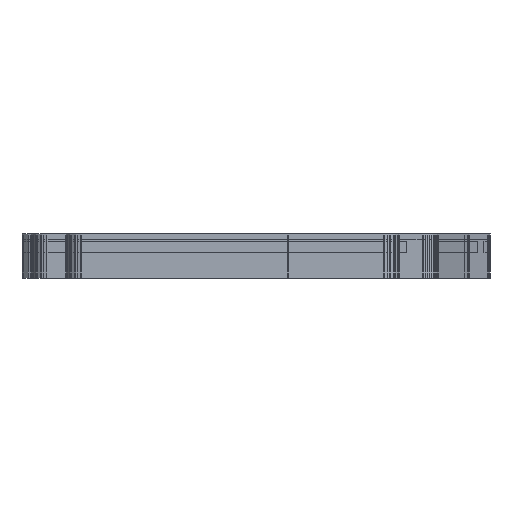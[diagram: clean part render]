
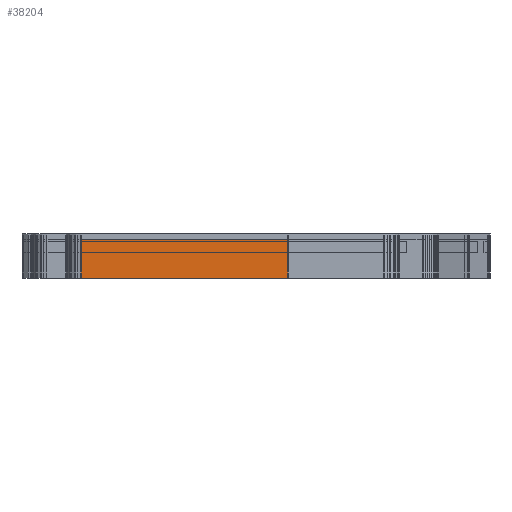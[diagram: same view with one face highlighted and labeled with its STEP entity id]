
A CAD part, left-side view. The second image highlights one B-rep face of the part: STEP entity #38204.
In plain terms, the highlighted planar face has unit normal (-1, 0, 0).
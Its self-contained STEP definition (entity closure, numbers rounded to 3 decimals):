
#22875 = PLANE('',#22876);
#22876 = AXIS2_PLACEMENT_3D('',#22877,#22878,#22879);
#22877 = CARTESIAN_POINT('',(-6.07,-64.068,-6.6));
#22878 = DIRECTION('',(0.707,-0.707,0.));
#22879 = DIRECTION('',(-0.707,-0.707,0.));
#22903 = PLANE('',#22904);
#22904 = AXIS2_PLACEMENT_3D('',#22905,#22906,#22907);
#22905 = CARTESIAN_POINT('',(71.068,-53.202,3.5));
#22906 = DIRECTION('',(0.,0.,1.));
#22907 = DIRECTION('',(1.,0.,-0.));
#22957 = PLANE('',#22958);
#22958 = AXIS2_PLACEMENT_3D('',#22959,#22960,#22961);
#22959 = CARTESIAN_POINT('',(71.068,-53.202,-6.6));
#22960 = DIRECTION('',(0.,0.,1.));
#22961 = DIRECTION('',(1.,0.,-0.));
#22972 = EDGE_CURVE('',#22973,#22975,#22977,.T.);
#22973 = VERTEX_POINT('',#22974);
#22974 = CARTESIAN_POINT('',(-6.07,-64.068,-6.6));
#22975 = VERTEX_POINT('',#22976);
#22976 = CARTESIAN_POINT('',(-6.07,-64.068,3.5));
#22977 = SURFACE_CURVE('',#22978,(#22982,#22989),.PCURVE_S1.);
#22978 = LINE('',#22979,#22980);
#22979 = CARTESIAN_POINT('',(-6.07,-64.068,-6.6));
#22980 = VECTOR('',#22981,1.);
#22981 = DIRECTION('',(0.,0.,1.));
#22982 = PCURVE('',#22875,#22983);
#22983 = DEFINITIONAL_REPRESENTATION('',(#22984),#22988);
#22984 = LINE('',#22985,#22986);
#22985 = CARTESIAN_POINT('',(0.,0.));
#22986 = VECTOR('',#22987,1.);
#22987 = DIRECTION('',(0.,-1.));
#22988 = ( GEOMETRIC_REPRESENTATION_CONTEXT(2) 
PARAMETRIC_REPRESENTATION_CONTEXT() REPRESENTATION_CONTEXT('2D SPACE',''
  ) );
#22989 = PCURVE('',#22990,#22995);
#22990 = PLANE('',#22991);
#22991 = AXIS2_PLACEMENT_3D('',#22992,#22993,#22994);
#22992 = CARTESIAN_POINT('',(-6.07,-9.721,-6.6));
#22993 = DIRECTION('',(1.,0.,-0.));
#22994 = DIRECTION('',(0.,-1.,0.));
#22995 = DEFINITIONAL_REPRESENTATION('',(#22996),#23000);
#22996 = LINE('',#22997,#22998);
#22997 = CARTESIAN_POINT('',(54.347,0.));
#22998 = VECTOR('',#22999,1.);
#22999 = DIRECTION('',(0.,-1.));
#23000 = ( GEOMETRIC_REPRESENTATION_CONTEXT(2) 
PARAMETRIC_REPRESENTATION_CONTEXT() REPRESENTATION_CONTEXT('2D SPACE',''
  ) );
#27742 = VERTEX_POINT('',#27743);
#27743 = CARTESIAN_POINT('',(-6.07,-9.721,-6.6));
#27757 = PLANE('',#27758);
#27758 = AXIS2_PLACEMENT_3D('',#27759,#27760,#27761);
#27759 = CARTESIAN_POINT('',(-6.026,-9.5,-6.6));
#27760 = DIRECTION('',(0.981,-0.195,0.));
#27761 = DIRECTION('',(-0.195,-0.981,0.));
#27769 = EDGE_CURVE('',#27742,#22973,#27770,.T.);
#27770 = SURFACE_CURVE('',#27771,(#27775,#27782),.PCURVE_S1.);
#27771 = LINE('',#27772,#27773);
#27772 = CARTESIAN_POINT('',(-6.07,-9.721,-6.6));
#27773 = VECTOR('',#27774,1.);
#27774 = DIRECTION('',(0.,-1.,0.));
#27775 = PCURVE('',#22957,#27776);
#27776 = DEFINITIONAL_REPRESENTATION('',(#27777),#27781);
#27777 = LINE('',#27778,#27779);
#27778 = CARTESIAN_POINT('',(-77.138,43.481));
#27779 = VECTOR('',#27780,1.);
#27780 = DIRECTION('',(0.,-1.));
#27781 = ( GEOMETRIC_REPRESENTATION_CONTEXT(2) 
PARAMETRIC_REPRESENTATION_CONTEXT() REPRESENTATION_CONTEXT('2D SPACE',''
  ) );
#27782 = PCURVE('',#22990,#27783);
#27783 = DEFINITIONAL_REPRESENTATION('',(#27784),#27788);
#27784 = LINE('',#27785,#27786);
#27785 = CARTESIAN_POINT('',(0.,0.));
#27786 = VECTOR('',#27787,1.);
#27787 = DIRECTION('',(1.,0.));
#27788 = ( GEOMETRIC_REPRESENTATION_CONTEXT(2) 
PARAMETRIC_REPRESENTATION_CONTEXT() REPRESENTATION_CONTEXT('2D SPACE',''
  ) );
#31716 = VERTEX_POINT('',#31717);
#31717 = CARTESIAN_POINT('',(-6.07,-9.721,3.5));
#31738 = EDGE_CURVE('',#31716,#22975,#31739,.T.);
#31739 = SURFACE_CURVE('',#31740,(#31744,#31751),.PCURVE_S1.);
#31740 = LINE('',#31741,#31742);
#31741 = CARTESIAN_POINT('',(-6.07,-9.721,3.5));
#31742 = VECTOR('',#31743,1.);
#31743 = DIRECTION('',(0.,-1.,0.));
#31744 = PCURVE('',#22903,#31745);
#31745 = DEFINITIONAL_REPRESENTATION('',(#31746),#31750);
#31746 = LINE('',#31747,#31748);
#31747 = CARTESIAN_POINT('',(-77.138,43.481));
#31748 = VECTOR('',#31749,1.);
#31749 = DIRECTION('',(0.,-1.));
#31750 = ( GEOMETRIC_REPRESENTATION_CONTEXT(2) 
PARAMETRIC_REPRESENTATION_CONTEXT() REPRESENTATION_CONTEXT('2D SPACE',''
  ) );
#31751 = PCURVE('',#22990,#31752);
#31752 = DEFINITIONAL_REPRESENTATION('',(#31753),#31757);
#31753 = LINE('',#31754,#31755);
#31754 = CARTESIAN_POINT('',(0.,-10.1));
#31755 = VECTOR('',#31756,1.);
#31756 = DIRECTION('',(1.,0.));
#31757 = ( GEOMETRIC_REPRESENTATION_CONTEXT(2) 
PARAMETRIC_REPRESENTATION_CONTEXT() REPRESENTATION_CONTEXT('2D SPACE',''
  ) );
#38204 = ADVANCED_FACE('',(#38205),#22990,.F.);
#38205 = FACE_BOUND('',#38206,.F.);
#38206 = EDGE_LOOP('',(#38207,#38228,#38229,#38230));
#38207 = ORIENTED_EDGE('',*,*,#38208,.T.);
#38208 = EDGE_CURVE('',#27742,#31716,#38209,.T.);
#38209 = SURFACE_CURVE('',#38210,(#38214,#38221),.PCURVE_S1.);
#38210 = LINE('',#38211,#38212);
#38211 = CARTESIAN_POINT('',(-6.07,-9.721,-6.6));
#38212 = VECTOR('',#38213,1.);
#38213 = DIRECTION('',(0.,0.,1.));
#38214 = PCURVE('',#22990,#38215);
#38215 = DEFINITIONAL_REPRESENTATION('',(#38216),#38220);
#38216 = LINE('',#38217,#38218);
#38217 = CARTESIAN_POINT('',(0.,0.));
#38218 = VECTOR('',#38219,1.);
#38219 = DIRECTION('',(0.,-1.));
#38220 = ( GEOMETRIC_REPRESENTATION_CONTEXT(2) 
PARAMETRIC_REPRESENTATION_CONTEXT() REPRESENTATION_CONTEXT('2D SPACE',''
  ) );
#38221 = PCURVE('',#27757,#38222);
#38222 = DEFINITIONAL_REPRESENTATION('',(#38223),#38227);
#38223 = LINE('',#38224,#38225);
#38224 = CARTESIAN_POINT('',(0.225,0.));
#38225 = VECTOR('',#38226,1.);
#38226 = DIRECTION('',(0.,-1.));
#38227 = ( GEOMETRIC_REPRESENTATION_CONTEXT(2) 
PARAMETRIC_REPRESENTATION_CONTEXT() REPRESENTATION_CONTEXT('2D SPACE',''
  ) );
#38228 = ORIENTED_EDGE('',*,*,#31738,.T.);
#38229 = ORIENTED_EDGE('',*,*,#22972,.F.);
#38230 = ORIENTED_EDGE('',*,*,#27769,.F.);
